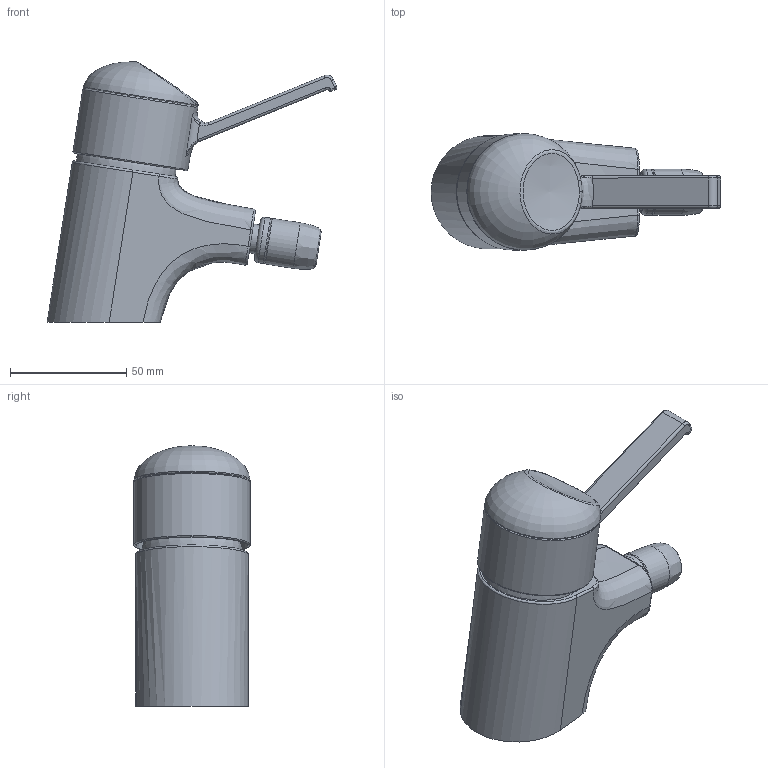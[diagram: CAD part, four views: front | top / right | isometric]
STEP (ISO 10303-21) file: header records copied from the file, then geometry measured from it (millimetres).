
FILE_DESCRIPTION(('STEP AP214'), '1');
FILE_NAME('30CR306R2LMKM', '', ('UNSPECIFIED'), ('UNSPECIFIED'), 'ASCON STEP Converter 1.6', 'ASCON Math Kernel', '');
FILE_SCHEMA(('AUTOMOTIVE_DESIGN { 1 0 10303 214 3 1 1}'));
Length unit declared in the file: millimetre
Assembly tree (2 placements, depth 2):
  (unnamed)
    (unnamed)
    (unnamed)
Bounding box: 124.44 x 50 x 111.75 mm (x, y, z)
Volume: 226217.2 mm3; surface area: 39298.8 mm2
Topology: 3 solids, 3 shells, 622 faces, 1258 edges, 818 vertices
Faces by surface type: cylinder 382, bspline 215, torus 12, plane 8, sphere 3, extrusion 2
Full cylindrical faces by diameter (mm): 0.36 x352, 12.6 x1, 16.2 x2, 19.8 x2, 48 x1, 50 x1
Entity records: 28133 total; most frequent: CARTESIAN_POINT 13628, ORIENTED_EDGE 1766, EDGE_LOOP 1525, DIRECTION 942, EDGE_CURVE 883, VERTEX_POINT 818, FACE_BOUND 790, FACE_OUTER_BOUND 735
